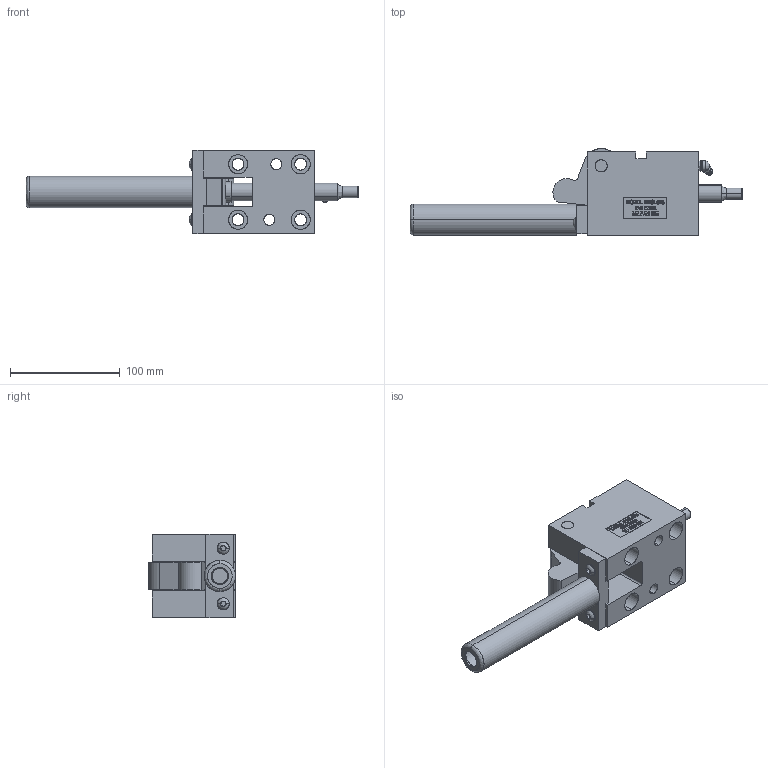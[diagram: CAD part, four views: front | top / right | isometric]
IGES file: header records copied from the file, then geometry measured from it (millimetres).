
Start section: SolidWorks IGES file using analytic representation for surfaces
Global section: file name: Y:\METRIC With OFFSETRIGGER\TOPMOUNT\MTOL62545\CLOSED\MTOL62545-C.IGS; native system: SolidWorks 2006 by SolidWorks Corporation; preprocessor: SolidWorks 2006 by SolidWorks Corporation; author: Jim; date: 090120.182850; units: inch
Bounding box: 303.07 x 79.37 x 76.2 mm (x, y, z)
Surface area: 122695.7 mm2 (no closed solid volume)
Topology: 0 solids, 0 shells, 610 faces, 7427 edges, 7423 vertices
Faces by surface type: bspline 484, revolution 126
